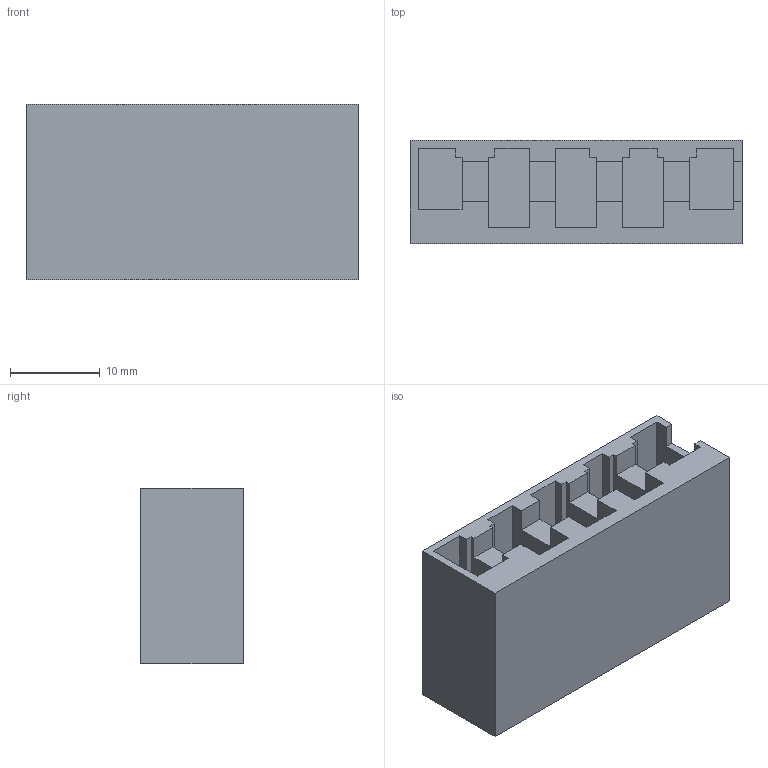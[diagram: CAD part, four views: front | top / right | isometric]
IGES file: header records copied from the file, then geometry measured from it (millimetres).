
Start section:  PTC IGES file: j4-cnp2-2.igs
Global section: file name: j4-cnp2-2.igs; native system: Creo Parametric by Parametric Technology Corporation; preprocessor: 2014310; author: ZZ86203; organization: Unknown; date: 20151022.125235; units: millimetre
Bounding box: 37 x 11.47 x 19.58 mm (x, y, z)
Volume: 6334.2 mm3; surface area: 3959.1 mm2
Topology: 1 solids, 1 shells, 58 faces, 168 edges, 112 vertices
Faces by surface type: bspline 58
